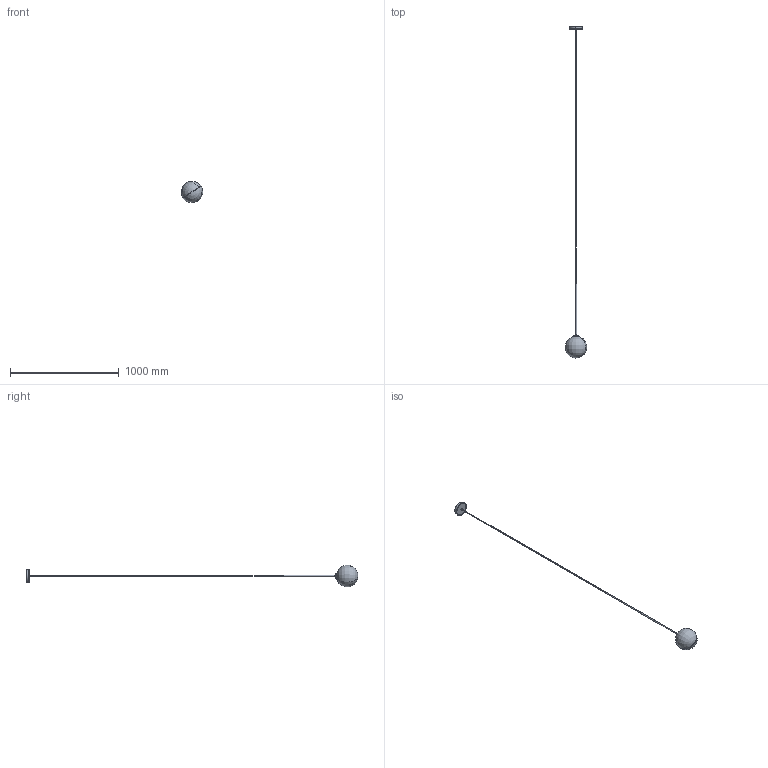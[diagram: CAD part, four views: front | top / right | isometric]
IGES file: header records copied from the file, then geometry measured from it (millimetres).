
Start section: SolidWorks IGES file using analytic representation for surfaces
Global section: file name: C:\Users\Agus\Desktop\AROMAS\Libreria modelos\1214 - Atom\c1214-8\c1215\c1215.IGS; native system: SolidWorks 2018; preprocessor: SolidWorks 2018; author: Agus; date: 190122.173643; units: millimetre
Bounding box: 195.4 x 3048.36 x 197.13 mm (x, y, z)
Surface area: 386415.7 mm2 (no closed solid volume)
Topology: 0 solids, 0 shells, 54 faces, 1004 edges, 1003 vertices
Faces by surface type: bspline 28, revolution 26
